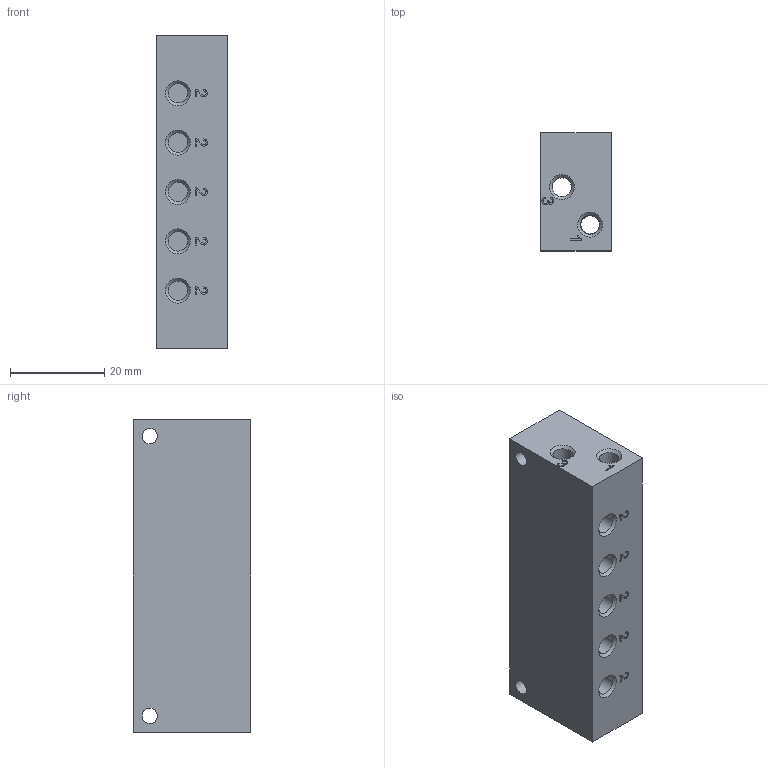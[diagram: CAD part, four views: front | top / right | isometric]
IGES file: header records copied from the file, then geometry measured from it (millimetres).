
Global section: file name: P395_05; native system: Autodesk Inventor 2014; preprocessor: unknown; date: 20160908.083129; units: millimetre
Bounding box: 15 x 25 x 66.5 mm (x, y, z)
Volume: 22224.6 mm3; surface area: 8600.7 mm2
Topology: 1 solids, 1 shells, 185 faces, 529 edges, 362 vertices
Faces by surface type: bspline 185
